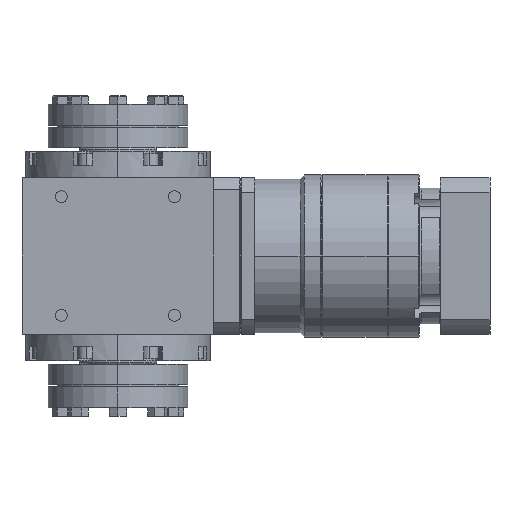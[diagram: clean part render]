
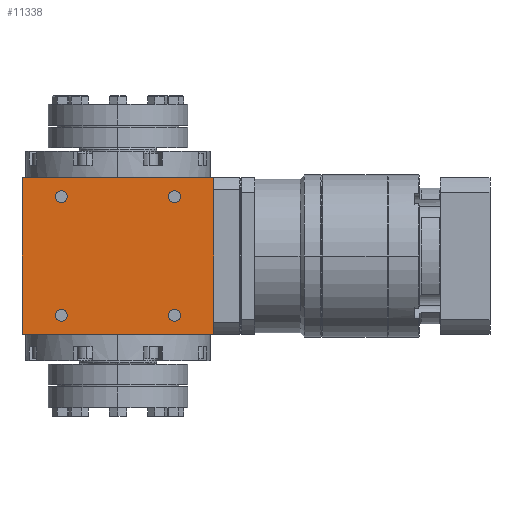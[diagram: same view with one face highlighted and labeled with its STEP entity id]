
A CAD part, left-side view. The second image highlights one B-rep face of the part: STEP entity #11338.
In plain terms, the highlighted planar face has unit normal (-1, 0, 0).
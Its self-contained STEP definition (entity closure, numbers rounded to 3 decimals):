
#135 = ORIENTED_EDGE ( 'NONE', *, *, #1023, .T. ) ;
#745 = VERTEX_POINT ( 'NONE', #6394 ) ;
#808 = CARTESIAN_POINT ( 'NONE',  ( -55., 29.1, 34. ) ) ;
#892 = CARTESIAN_POINT ( 'NONE',  ( -55., 55., -45. ) ) ;
#939 = EDGE_CURVE ( 'NONE', #13829, #5388, #14556, .T. ) ;
#984 = VERTEX_POINT ( 'NONE', #2592 ) ;
#1023 = EDGE_CURVE ( 'NONE', #2186, #984, #13787, .T. ) ;
#1134 = DIRECTION ( 'NONE',  ( -1., 0., 0. ) ) ;
#1570 = VERTEX_POINT ( 'NONE', #18219 ) ;
#1795 = ORIENTED_EDGE ( 'NONE', *, *, #2491, .T. ) ;
#2041 = PLANE ( 'NONE',  #10268 ) ;
#2129 = CARTESIAN_POINT ( 'NONE',  ( -55., 55., -45. ) ) ;
#2186 = VERTEX_POINT ( 'NONE', #9092 ) ;
#2379 = ORIENTED_EDGE ( 'NONE', *, *, #8831, .T. ) ;
#2463 = DIRECTION ( 'NONE',  ( 0., -1., 0. ) ) ;
#2491 = EDGE_CURVE ( 'NONE', #1570, #8661, #17816, .T. ) ;
#2584 = CIRCLE ( 'NONE', #16739, 3.4 ) ;
#2592 = CARTESIAN_POINT ( 'NONE',  ( -55., 29.1, -34. ) ) ;
#2813 = CARTESIAN_POINT ( 'NONE',  ( -55., 0., 45. ) ) ;
#2992 = CARTESIAN_POINT ( 'NONE',  ( -55., -32.5, 34. ) ) ;
#3200 = LINE ( 'NONE', #2813, #5641 ) ;
#3415 = CARTESIAN_POINT ( 'NONE',  ( -55., -55., -45. ) ) ;
#3811 = AXIS2_PLACEMENT_3D ( 'NONE', #4432, #19070, #12144 ) ;
#4067 = EDGE_CURVE ( 'NONE', #13829, #13667, #17174, .T. ) ;
#4432 = CARTESIAN_POINT ( 'NONE',  ( -55., -32.5, -34. ) ) ;
#5244 = CARTESIAN_POINT ( 'NONE',  ( -55., 55., 45. ) ) ;
#5260 = DIRECTION ( 'NONE',  ( 1., 0., 0. ) ) ;
#5356 = CIRCLE ( 'NONE', #3811, 3.4 ) ;
#5388 = VERTEX_POINT ( 'NONE', #5244 ) ;
#5472 = EDGE_CURVE ( 'NONE', #984, #2186, #17592, .T. ) ;
#5488 = CARTESIAN_POINT ( 'NONE',  ( -55., 32.5, -34. ) ) ;
#5518 = DIRECTION ( 'NONE',  ( 0., -1., 0. ) ) ;
#5525 = ORIENTED_EDGE ( 'NONE', *, *, #9081, .T. ) ;
#5578 = EDGE_LOOP ( 'NONE', ( #10707, #14902 ) ) ;
#5641 = VECTOR ( 'NONE', #7436, 1000. ) ;
#6310 = ORIENTED_EDGE ( 'NONE', *, *, #8247, .F. ) ;
#6394 = CARTESIAN_POINT ( 'NONE',  ( -55., -35.9, -34. ) ) ;
#6611 = AXIS2_PLACEMENT_3D ( 'NONE', #16503, #17845, #16207 ) ;
#6912 = CIRCLE ( 'NONE', #6611, 3.4 ) ;
#7104 = DIRECTION ( 'NONE',  ( 1., 0., 0. ) ) ;
#7324 = VECTOR ( 'NONE', #15713, 1000. ) ;
#7436 = DIRECTION ( 'NONE',  ( 0., -1., 0. ) ) ;
#8247 = EDGE_CURVE ( 'NONE', #5388, #12593, #3200, .T. ) ;
#8292 = AXIS2_PLACEMENT_3D ( 'NONE', #2992, #16275, #16569 ) ;
#8329 = DIRECTION ( 'NONE',  ( 0., -1., 0. ) ) ;
#8661 = VERTEX_POINT ( 'NONE', #10507 ) ;
#8831 = EDGE_CURVE ( 'NONE', #13667, #12593, #13853, .T. ) ;
#9081 = EDGE_CURVE ( 'NONE', #8661, #1570, #2584, .T. ) ;
#9092 = CARTESIAN_POINT ( 'NONE',  ( -55., 35.9, -34. ) ) ;
#9547 = EDGE_LOOP ( 'NONE', ( #14922, #11924 ) ) ;
#9605 = AXIS2_PLACEMENT_3D ( 'NONE', #14037, #5260, #2463 ) ;
#9859 = CARTESIAN_POINT ( 'NONE',  ( -55., 55., -45. ) ) ;
#10028 = DIRECTION ( 'NONE',  ( 0., 0., 1. ) ) ;
#10219 = EDGE_CURVE ( 'NONE', #17611, #17631, #12050, .T. ) ;
#10268 = AXIS2_PLACEMENT_3D ( 'NONE', #2129, #1134, #10028 ) ;
#10507 = CARTESIAN_POINT ( 'NONE',  ( -55., -29.1, 34. ) ) ;
#10598 = EDGE_CURVE ( 'NONE', #17631, #17611, #17896, .T. ) ;
#10707 = ORIENTED_EDGE ( 'NONE', *, *, #10219, .T. ) ;
#10723 = VERTEX_POINT ( 'NONE', #17492 ) ;
#10888 = DIRECTION ( 'NONE',  ( 0., 0., 1. ) ) ;
#11215 = CARTESIAN_POINT ( 'NONE',  ( -55., 0., -45. ) ) ;
#11338 = ADVANCED_FACE ( 'NONE', ( #13702, #12261, #18133, #16297, #16677 ), #2041, .T. ) ;
#11456 = DIRECTION ( 'NONE',  ( 0., -1., 0. ) ) ;
#11785 = ORIENTED_EDGE ( 'NONE', *, *, #5472, .T. ) ;
#11924 = ORIENTED_EDGE ( 'NONE', *, *, #14092, .T. ) ;
#11946 = AXIS2_PLACEMENT_3D ( 'NONE', #5488, #12806, #11456 ) ;
#12050 = CIRCLE ( 'NONE', #12353, 3.4 ) ;
#12144 = DIRECTION ( 'NONE',  ( 0., -1., 0. ) ) ;
#12261 = FACE_BOUND ( 'NONE', #5578, .T. ) ;
#12353 = AXIS2_PLACEMENT_3D ( 'NONE', #14428, #7104, #14337 ) ;
#12354 = AXIS2_PLACEMENT_3D ( 'NONE', #12663, #18730, #8329 ) ;
#12412 = CARTESIAN_POINT ( 'NONE',  ( -55., -55., -45. ) ) ;
#12570 = EDGE_LOOP ( 'NONE', ( #11785, #135 ) ) ;
#12593 = VERTEX_POINT ( 'NONE', #15082 ) ;
#12655 = CARTESIAN_POINT ( 'NONE',  ( -55., 35.9, 34. ) ) ;
#12663 = CARTESIAN_POINT ( 'NONE',  ( -55., 32.5, -34. ) ) ;
#12806 = DIRECTION ( 'NONE',  ( 1., 0., 0. ) ) ;
#12858 = ORIENTED_EDGE ( 'NONE', *, *, #939, .F. ) ;
#13362 = DIRECTION ( 'NONE',  ( 0., -1., 0. ) ) ;
#13388 = EDGE_CURVE ( 'NONE', #745, #10723, #5356, .T. ) ;
#13667 = VERTEX_POINT ( 'NONE', #3415 ) ;
#13702 = FACE_OUTER_BOUND ( 'NONE', #18542, .T. ) ;
#13787 = CIRCLE ( 'NONE', #11946, 3.4 ) ;
#13829 = VERTEX_POINT ( 'NONE', #892 ) ;
#13853 = LINE ( 'NONE', #12412, #18583 ) ;
#14037 = CARTESIAN_POINT ( 'NONE',  ( -55., 32.5, 34. ) ) ;
#14092 = EDGE_CURVE ( 'NONE', #10723, #745, #6912, .T. ) ;
#14337 = DIRECTION ( 'NONE',  ( 0., -1., 0. ) ) ;
#14410 = VECTOR ( 'NONE', #5518, 1000. ) ;
#14428 = CARTESIAN_POINT ( 'NONE',  ( -55., 32.5, 34. ) ) ;
#14556 = LINE ( 'NONE', #9859, #7324 ) ;
#14804 = CARTESIAN_POINT ( 'NONE',  ( -55., -32.5, 34. ) ) ;
#14902 = ORIENTED_EDGE ( 'NONE', *, *, #10598, .T. ) ;
#14922 = ORIENTED_EDGE ( 'NONE', *, *, #13388, .T. ) ;
#15082 = CARTESIAN_POINT ( 'NONE',  ( -55., -55., 45. ) ) ;
#15713 = DIRECTION ( 'NONE',  ( 0., 0., 1. ) ) ;
#16174 = ORIENTED_EDGE ( 'NONE', *, *, #4067, .T. ) ;
#16207 = DIRECTION ( 'NONE',  ( 0., -1., 0. ) ) ;
#16243 = EDGE_LOOP ( 'NONE', ( #1795, #5525 ) ) ;
#16275 = DIRECTION ( 'NONE',  ( 1., 0., 0. ) ) ;
#16297 = FACE_BOUND ( 'NONE', #12570, .T. ) ;
#16503 = CARTESIAN_POINT ( 'NONE',  ( -55., -32.5, -34. ) ) ;
#16569 = DIRECTION ( 'NONE',  ( 0., -1., 0. ) ) ;
#16677 = FACE_BOUND ( 'NONE', #16243, .T. ) ;
#16739 = AXIS2_PLACEMENT_3D ( 'NONE', #14804, #18852, #13362 ) ;
#17174 = LINE ( 'NONE', #11215, #14410 ) ;
#17492 = CARTESIAN_POINT ( 'NONE',  ( -55., -29.1, -34. ) ) ;
#17592 = CIRCLE ( 'NONE', #12354, 3.4 ) ;
#17611 = VERTEX_POINT ( 'NONE', #808 ) ;
#17631 = VERTEX_POINT ( 'NONE', #12655 ) ;
#17816 = CIRCLE ( 'NONE', #8292, 3.4 ) ;
#17845 = DIRECTION ( 'NONE',  ( 1., 0., 0. ) ) ;
#17896 = CIRCLE ( 'NONE', #9605, 3.4 ) ;
#18133 = FACE_BOUND ( 'NONE', #9547, .T. ) ;
#18219 = CARTESIAN_POINT ( 'NONE',  ( -55., -35.9, 34. ) ) ;
#18542 = EDGE_LOOP ( 'NONE', ( #12858, #16174, #2379, #6310 ) ) ;
#18583 = VECTOR ( 'NONE', #10888, 1000. ) ;
#18730 = DIRECTION ( 'NONE',  ( 1., 0., 0. ) ) ;
#18852 = DIRECTION ( 'NONE',  ( 1., 0., 0. ) ) ;
#19070 = DIRECTION ( 'NONE',  ( 1., 0., 0. ) ) ;
